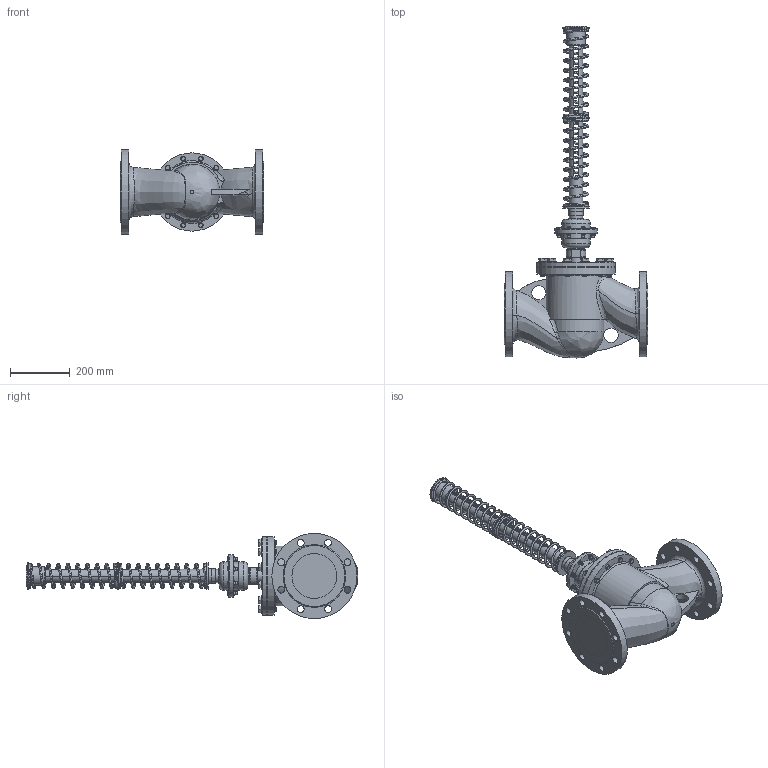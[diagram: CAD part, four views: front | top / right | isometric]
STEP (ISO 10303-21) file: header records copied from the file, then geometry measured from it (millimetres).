
FILE_DESCRIPTION(('STEP AP203'), '1');
FILE_NAME('rpdp_150_1z2_24_44_002', '2016-02-02T11:21:46', (''), (''), 'ASCON STEP Converter 1.3', 'ASCON Math Kernel', '');
FILE_SCHEMA(('CONFIG_CONTROL_DESIGN'));
Length unit declared in the file: millimetre
Products named in the file (104): 505; 506; 507; 508; 509; 510; 511; 512; 513; 514; 515; 516; 517; 518; 519; 520; 521; 522; 523; 524; 525; 526; 527; 528; 529; 530; 531; 532; 533; 534; 535; 536; 537; 538; 539; 540; 541; 542; 543; 544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
Assembly tree (103 placements, depth 2):
  505
    506
    507
    508
    509
    510
    511
    512
    513
    514
    515
    516
    517
    518
    519
    520
    521
    522
    523
    524
    525
    526
    527
    528
    529
    530
    531
    532
    533
    534
    535
    536
    537
    538
    539
    540
    541
    542
    543
    544
    545
    546
    547
    548
    549
    550
    551
    552
    553
    554
    555
    556
    557
    558
    559
    560
    561
    562
    563
    564
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Bounding box: 480 x 1111.5 x 285 mm (x, y, z)
Volume: 10239308.1 mm3; surface area: 1890854.8 mm2
Topology: 62 solids, 105 shells, 900 faces, 1967 edges, 1284 vertices
Faces by surface type: plane 411, cylinder 267, cone 114, bspline 67, torus 40, sphere 1
Full cylindrical faces by diameter (mm): 6.5 x8, 6.6 x8, 8 x16, 9 x16, 12 x2, 14 x12, 14.5 x12, 16 x27, 17 x12, 18 x13, 20 x2, 22 x2, 23 x17, 23.6 x1, 26 x2, 28 x1, 29.6 x1, 30 x12, 32 x1, 32.4 x1, 34 x1, 36 x3, 38 x3, 39 x2, 40 x3, 41 x1, 42.7 x1, 44 x2, 45 x2, 46 x2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
Entity records: 70375 total; most frequent: CARTESIAN_POINT 39737, DIRECTION 3929, ORIENTED_EDGE 3760, EDGE_CURVE 1965, AXIS2_PLACEMENT_3D 1620, VERTEX_POINT 1284, EDGE_LOOP 1193, ADVANCED_FACE 900
